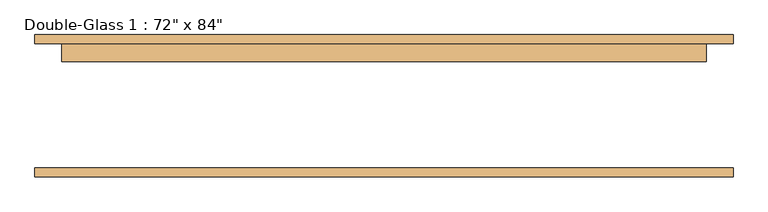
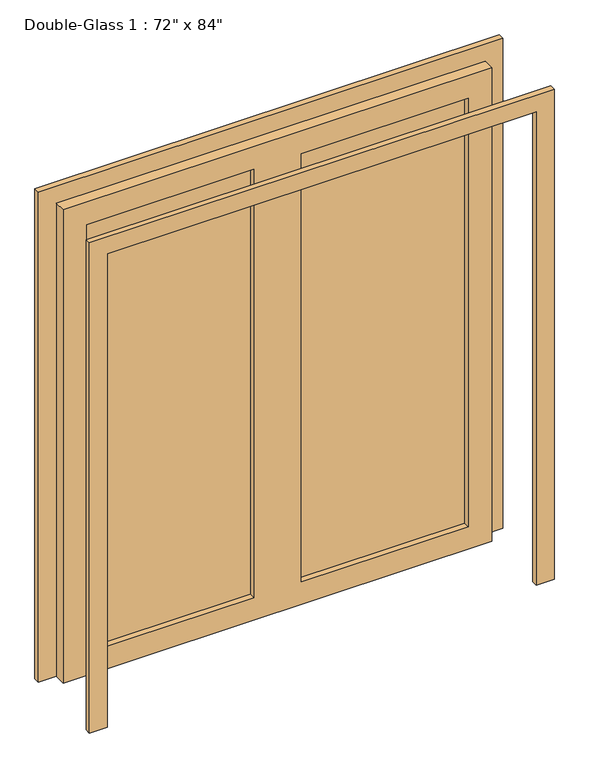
"""IFC4 building model written with IfcOpenShell, lengths in millimetres: door geometry."""

from ifc_helpers import new_model, si_unit, frame, origin, place, context, project, spatial, polyline, outline, extrude, source, transform, mapped, element, save


def door_ed2c6a3f(model_context):
    return source(origin(), model_context, "Body", "SweptSolid", [
        extrude(outline(polyline([(0.0, 990.6), (2209.8, 990.6), (2209.8, -990.6), (0.0, -990.6), (0.0, -914.4), (2133.6, -914.4), (2133.6, 914.4), (0.0, 914.4), (0.0, 990.6)])), frame((0.0, -199.23125, 0.0), z_axis=(0.0, 1.0, 0.0), x_axis=(0.0, 0.0, 1.0)), (0.0, 0.0, 1.0), 25.4),
        extrude(outline(polyline([(2133.6, 914.4), (0.0, 914.4), (0.0, 990.6), (2209.8, 990.6), (2209.8, -990.6), (0.0, -990.6), (0.0, -914.4), (2133.6, -914.4), (2133.6, 914.4)])), frame((0.0, 178.59375, 0.0), z_axis=(0.0, 1.0, 0.0), x_axis=(0.0, 0.0, 1.0)), (0.0, 0.0, 1.0), 25.4),
        extrude(outline(polyline([(812.8, 153.19375), (101.6, 153.19375), (101.6, 160.3375), (812.8, 160.3375), (812.8, 153.19375)])), frame((0.0, 0.0, 101.6), z_axis=(0.0, 0.0, 1.0), x_axis=(1.0, 0.0, 0.0)), (0.0, 0.0, 1.0), 1930.4),
        extrude(outline(polyline([(-101.6, 153.19375), (-812.8, 153.19375), (-812.8, 160.3375), (-101.6, 160.3375), (-101.6, 153.19375)])), frame((0.0, 0.0, 101.6), z_axis=(0.0, 0.0, 1.0), x_axis=(1.0, 0.0, 0.0)), (0.0, 0.0, 1.0), 1930.4),
        extrude(outline(polyline([(2133.6, 914.4), (2133.6, -914.4), (0.0, -914.4), (0.0, 914.4), (2133.6, 914.4)]), holes=[polyline([(2032.0, -101.6), (101.6, -101.6), (101.6, -812.8), (2032.0, -812.8), (2032.0, -101.6)]), polyline([(2032.0, 812.8), (101.6, 812.8), (101.6, 101.6), (2032.0, 101.6), (2032.0, 812.8)])]), frame((0.0, 127.79375, 0.0), z_axis=(0.0, 1.0, 0.0), x_axis=(0.0, 0.0, 1.0)), (0.0, 0.0, 1.0), 50.8),
    ])


if __name__ == "__main__":
    model = new_model("IFC4")
    model_context = context("Model", 3, world=origin())
    ifc_project = project(units=[si_unit("LENGTHUNIT", "METRE", prefix="MILLI")], contexts=[model_context])
    site = spatial("IfcSite", under=ifc_project)
    building = spatial("IfcBuilding", under=site)
    placement = place(None, origin())
    door_shape = door_ed2c6a3f(model_context)
    element("IfcDoor", 1, ObjectType="Double-Glass 1 : 72\" x 84\"", at=placement, inside=building, context=model_context, shape_type="MappedRepresentation", body=[
        mapped(door_shape, transform((0.0, 0.0, 0.0), x_axis=(1.0, 0.0, 0.0), y_axis=(0.0, 1.0, 0.0), z_axis=(0.0, 0.0, 1.0))),
    ])
    save(model, "model.ifc")
